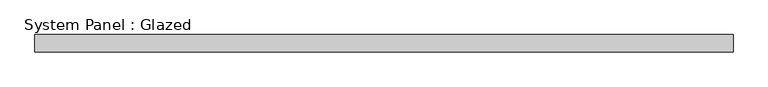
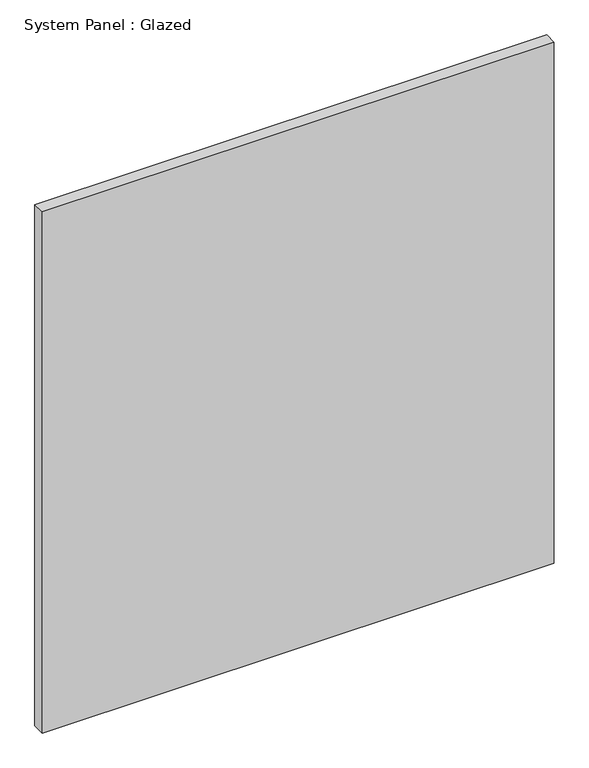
"""IFC4 building model written with IfcOpenShell, lengths in millimetres: plate geometry, System Panel : Glazed."""

from ifc_helpers import new_model, si_unit, origin, origin_with_axes, place, context, project, spatial, polyline, outline, extrude, source, transform, mapped, element, save


def system_panel_glazed_19fcf1f5(model_context):
    return source(origin(), model_context, "Body", "SweptSolid", [
        extrude(outline(polyline([(516.2550001, -44.45), (-516.2550001, -44.45), (-516.2550001, -19.05), (516.2550001, -19.05), (516.2550001, -44.45)])), origin_with_axes(), (0.0, 0.0, 1.0), 1110.75),
    ])


if __name__ == "__main__":
    model = new_model("IFC4")
    model_context = context("Model", 3, world=origin())
    ifc_project = project(units=[si_unit("LENGTHUNIT", "METRE", prefix="MILLI")], contexts=[model_context])
    site = spatial("IfcSite", under=ifc_project)
    building = spatial("IfcBuilding", under=site)
    placement = place(None, origin())
    system_panel_glazed_shape = system_panel_glazed_19fcf1f5(model_context)
    element("IfcPlate", 1, ObjectType="System Panel : Glazed", at=placement, inside=building, context=model_context, shape_type="MappedRepresentation", body=[
        mapped(system_panel_glazed_shape, transform((0.0, 0.0, 0.0), x_axis=(1.0, 0.0, 0.0), y_axis=(0.0, 1.0, 0.0), z_axis=(0.0, 0.0, 1.0))),
    ])
    save(model, "model.ifc")
